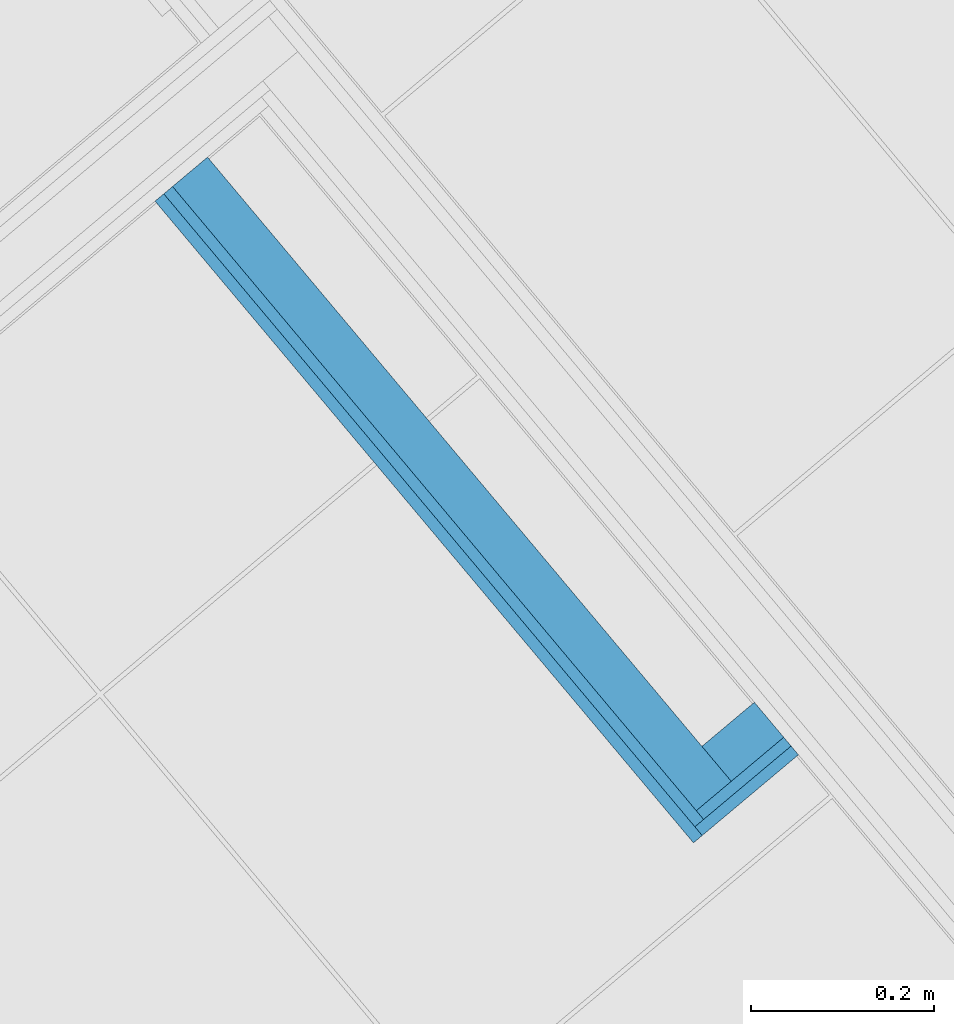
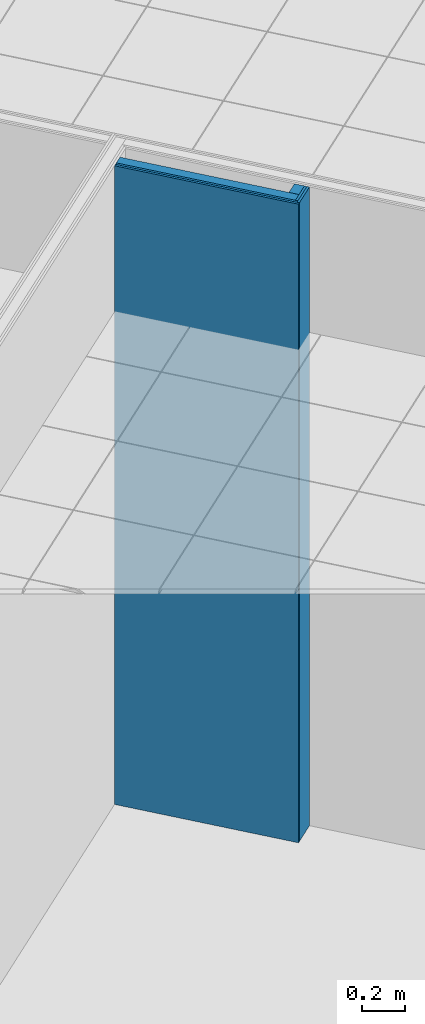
# One storey, part 58 of 338: 6 building element parts, 2 elements without a shape of their own.
"""IFC2X3 building model written with IfcOpenShell, lengths in millimetres."""

from ifc_helpers import new_model, entity, si_unit, converted_unit, derived_unit, money_unit, direction, frame, origin_with_axes, place, context, subcontext, project, spatial, faceted_brep, material, type_object, element, aggregate, save


model = new_model("IFC2X3")

# Units and contexts
model_context = context("Model", 3, precision=0.01, world=origin_with_axes(), true_north=direction((0.0, 1.0)))
plan_context = context("Plan", 3, precision=0.01, world=origin_with_axes(), true_north=direction((0.0, 1.0)))
body_context = subcontext(model_context, "Body", "Model", "MODEL_VIEW")
ifc_project = project(units=[si_unit("LENGTHUNIT", "METRE", prefix="MILLI"), si_unit("AREAUNIT", "SQUARE_METRE"), si_unit("VOLUMEUNIT", "CUBIC_METRE"), converted_unit("PLANEANGLEUNIT", "DEGREE", entity("IfcPlaneAngleMeasure", 0.0174532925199), si_unit("PLANEANGLEUNIT", "RADIAN"), dimensions=[0, 0, 0, 0, 0, 0, 0]), money_unit("EUR"), converted_unit("TIMEUNIT", "Year", entity("IfcTimeMeasure", 31556926.0), si_unit("TIMEUNIT", "SECOND"), dimensions=[0, 0, 1, 0, 0, 0, 0]), si_unit("MASSUNIT", "GRAM", prefix="KILO"), si_unit("THERMODYNAMICTEMPERATUREUNIT", "DEGREE_CELSIUS"), si_unit("LUMINOUSINTENSITYUNIT", "LUMEN"), si_unit("ENERGYUNIT", "JOULE", prefix="MEGA"), derived_unit("THERMALCONDUCTANCEUNIT", [(si_unit("POWERUNIT", "WATT"), 1), (si_unit("LENGTHUNIT", "METRE"), -1), (si_unit("THERMODYNAMICTEMPERATUREUNIT", "KELVIN"), -1)]), derived_unit("SPECIFICHEATCAPACITYUNIT", [(si_unit("ENERGYUNIT", "JOULE"), 1), (si_unit("MASSUNIT", "GRAM", prefix="KILO"), -1), (si_unit("THERMODYNAMICTEMPERATUREUNIT", "KELVIN"), -1)]), derived_unit("MASSDENSITYUNIT", [(si_unit("MASSUNIT", "GRAM", prefix="KILO"), 1), (si_unit("VOLUMEUNIT", "CUBIC_METRE"), -1)])], contexts=[model_context, plan_context])

# Site, building, storey
site_placement = place(None, origin_with_axes())
site = spatial("IfcSite", under=ifc_project, at=site_placement, Name="Fortuinstraat Woensdrecht", CompositionType="ELEMENT")
building_placement = place(site_placement, origin_with_axes())
building = spatial("IfcBuilding", under=site, at=building_placement, Name="IKC Fortuna", CompositionType="ELEMENT")
storey_placement = place(building_placement, origin_with_axes())
storey = spatial("IfcBuildingStorey", under=building, at=storey_placement, Name="00 begane grond", CompositionType="ELEMENT", Elevation=0.0)

# Wall, building element parts
wall_type = type_object("IfcWallType", Name="MS75 50.2A 75", PredefinedType="NOTDEFINED")
wall_1_placement = place(storey_placement, frame((9368.79177289, -4786.86742095, 1450.0), z_axis=(0.0, 0.0, 1.0), x_axis=(0.642787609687, -0.766044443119, 0.0)))
wall_1 = element("IfcWall", 1, at=wall_1_placement, inside=storey, type_object=wall_type, Name="22_Wand_Binnenwand")
ifc_material_1 = material(Name="Isolatie - Steenwol LSW")
building_element_part_1_placement = place(wall_1_placement, origin_with_axes())
building_element_part_1 = element("IfcBuildingElementPart", 2, at=building_element_part_1_placement, material=ifc_material_1, Name="Isolatie - Steenwol LSW", context=body_context, shape_type="Brep", body=[
    faceted_brep([(892.000008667, 25.0, 0.0), (0.0, 25.0, 0.0), (0.0, 75.0, 0.0), (892.000008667, 75.0, 0.0), (892.000008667, 25.0, 3650.0), (0.0, 25.0, 3650.0), (0.0, 75.0, 3650.0), (892.000008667, 75.0, 3650.0)], [[[0, 1, 2, 3]], [[4, 5, 1, 0]], [[2, 1, 5, 6]], [[3, 2, 6, 7]], [[3, 7, 4, 0]], [[7, 6, 5, 4]]]),
])
ifc_material_2 = material(Name="Gipsplaat")
building_element_part_2_placement = place(wall_1_placement, origin_with_axes())
building_element_part_2 = element("IfcBuildingElementPart", 3, at=building_element_part_2_placement, material=ifc_material_2, Name="Gipsplaat", context=body_context, shape_type="Brep", body=[
    faceted_brep([(904.500008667, 12.5, 0.0), (0.0, 12.5, 0.0), (0.0, 25.0, 0.0), (904.500008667, 25.0, 0.0), (904.500008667, 12.5, 3650.0), (0.0, 12.5, 3650.0), (0.0, 25.0, 3650.0), (904.500008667, 25.0, 3650.0)], [[[0, 1, 2, 3]], [[4, 5, 1, 0]], [[2, 1, 5, 6]], [[3, 2, 6, 7]], [[3, 7, 4, 0]], [[7, 6, 5, 4]]]),
])
building_element_part_3_placement = place(wall_1_placement, origin_with_axes())
building_element_part_3 = element("IfcBuildingElementPart", 4, at=building_element_part_3_placement, material=ifc_material_2, Name="Gipsplaat", context=body_context, shape_type="Brep", body=[
    faceted_brep([(917.000008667, 0.0, 0.0), (0.0, 0.0, 0.0), (0.0, 12.5, 0.0), (917.000008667, 12.5, 0.0), (917.000008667, 0.0, 3650.0), (0.0, 0.0, 3650.0), (0.0, 12.5, 3650.0), (917.000008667, 12.5, 3650.0)], [[[0, 1, 2, 3]], [[4, 5, 1, 0]], [[2, 1, 5, 6]], [[3, 2, 6, 7]], [[3, 7, 4, 0]], [[7, 6, 5, 4]]]),
])
aggregate(wall_1, [building_element_part_1, building_element_part_2, building_element_part_3])

wall_2_placement = place(storey_placement, frame((9958.22801655, -5489.33018193, 1450.0), z_axis=(0.0, 0.0, 1.0), x_axis=(0.766044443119, 0.642787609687, 0.0)))
wall_2 = element("IfcWall", 5, at=wall_2_placement, inside=storey, type_object=wall_type, Name="22_Wand_Binnenwand")
building_element_part_4_placement = place(wall_2_placement, origin_with_axes())
building_element_part_4 = element("IfcBuildingElementPart", 6, at=building_element_part_4_placement, material=ifc_material_1, Name="Isolatie - Steenwol LSW", context=body_context, shape_type="Brep", body=[
    faceted_brep([(150.0, 25.0, 0.0), (150.0, 25.0, 3650.0), (75.0, 25.0, 3650.0), (75.0, 25.0, 0.0), (150.0, 75.0, 3650.0), (150.0, 75.0, 0.0), (150.0, 75.0000086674, 910.0), (150.0, 75.0000086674, 1752.0), (75.0, 75.0, 3650.0), (75.0, 75.0, 0.0)], [[[0, 1, 2, 3]], [[4, 1, 0, 5, 6, 7]], [[1, 4, 8, 2]], [[3, 2, 8, 9]], [[5, 0, 3, 9]], [[6, 5, 9, 8, 4, 7]]]),
])
building_element_part_5_placement = place(wall_2_placement, origin_with_axes())
building_element_part_5 = element("IfcBuildingElementPart", 7, at=building_element_part_5_placement, material=ifc_material_2, Name="Gipsplaat", context=body_context, shape_type="Brep", body=[
    faceted_brep([(150.0, 12.5, 0.0), (150.0, 12.5, 3650.0), (25.0, 12.5, 3650.0), (25.0, 12.5, 0.0), (150.0, 25.0, 3650.0), (150.0, 25.0, 0.0), (25.0, 25.0, 3650.0), (25.0, 25.0, 0.0)], [[[0, 1, 2, 3]], [[4, 1, 0, 5]], [[1, 4, 6, 2]], [[3, 2, 6, 7]], [[5, 0, 3, 7]], [[4, 5, 7, 6]]]),
])
building_element_part_6_placement = place(wall_2_placement, origin_with_axes())
building_element_part_6 = element("IfcBuildingElementPart", 8, at=building_element_part_6_placement, material=ifc_material_2, Name="Gipsplaat", context=body_context, shape_type="Brep", body=[
    faceted_brep([(150.0, 0.0, 0.0), (150.0, 0.0, 3650.0), (12.5, 0.0, 3650.0), (12.5, 0.0, 0.0), (150.0, 12.5, 3650.0), (150.0, 12.5, 0.0), (12.5, 12.5, 3650.0), (12.5, 12.5, 0.0)], [[[0, 1, 2, 3]], [[4, 1, 0, 5]], [[1, 4, 6, 2]], [[3, 2, 6, 7]], [[5, 0, 3, 7]], [[4, 5, 7, 6]]]),
])
aggregate(wall_2, [building_element_part_4, building_element_part_5, building_element_part_6])

save(model, "model.ifc")
